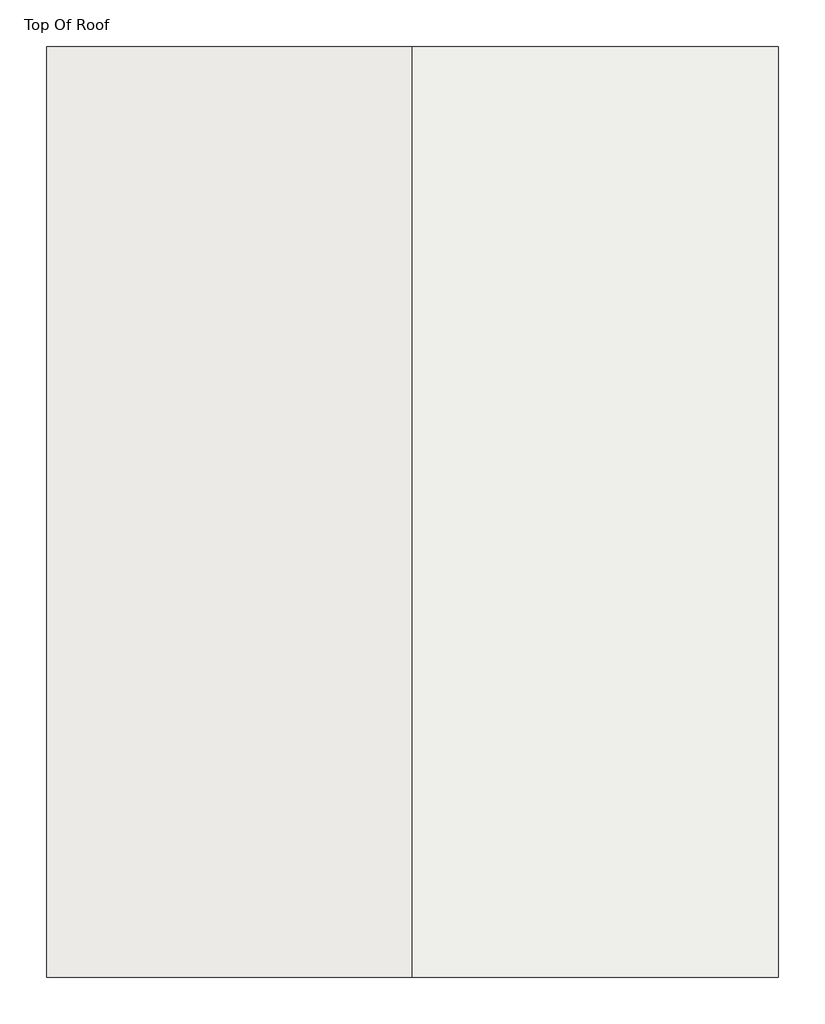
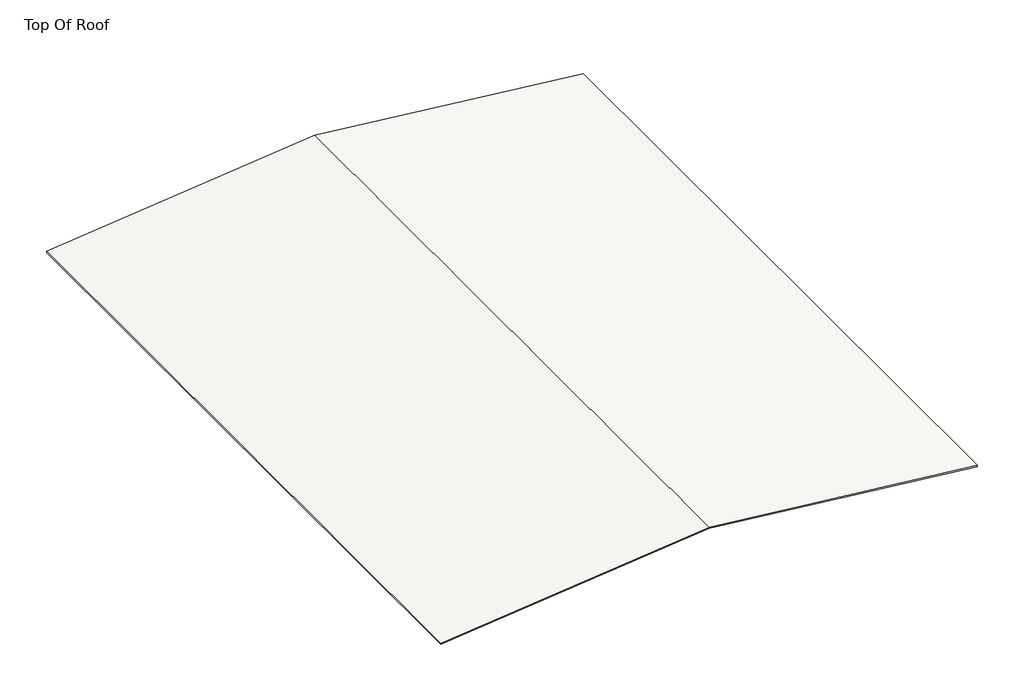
# One storey: 1 roof.
"""IFC4 building model written with IfcOpenShell, lengths in millimetres."""

import ifcopenshell
import ifcopenshell.guid

model = None  # the IFC model being written
_history = None  # IfcOwnerHistory: only IFC2X3 demands one
_inside = {}  # id of a spatial element -> (the spatial element, [elements in it])
_under = {}  # id of a project, library or spatial element -> (it, [spatial elements below it])
_declared = {}  # id of a project -> (the project, [libraries it declares])
_typed = {}  # id of a type object -> (the type object, [elements of that type])
_made_of = {}  # id of a material, layer set ... -> (it, [elements and type objects made of it])


def new_model(schema):
    """Start an empty IFC model of exactly this schema.

    Asked for "IFC4X3", IfcOpenShell would pick the latest addendum, in which some entities
    have other attributes; the version numbers below select the first issue.
    IFC2X3 requires an IfcOwnerHistory on every rooted entity: one is made here for all.
    """
    global model, _history
    if schema == "IFC4X3":
        model = ifcopenshell.file(schema_version=(4, 3, 0, 0))
    else:
        model = ifcopenshell.file(schema=schema)
    _inside.clear()
    _under.clear()
    _declared.clear()
    _typed.clear()
    _made_of.clear()
    _history = None
    if model.schema == "IFC2X3":
        org = make("IfcOrganization", Name="unknown")
        user = make(
            "IfcPersonAndOrganization",
            ThePerson=make("IfcPerson", FamilyName="unknown"),
            TheOrganization=org,
        )
        app = make(
            "IfcApplication",
            ApplicationDeveloper=org,
            Version="unknown",
            ApplicationFullName="unknown",
            ApplicationIdentifier="unknown",
        )
        _history = make(
            "IfcOwnerHistory",
            OwningUser=user,
            OwningApplication=app,
            ChangeAction="ADDED",
            CreationDate=0,
        )
    return model


def make(cls, **values):
    """One entity of the class cls with the attributes given. An attribute that is None is left unset."""
    return model.create_entity(
        cls, **{name: value for name, value in values.items() if value is not None}
    )


def rooted(cls, **values):
    """An entity with a GlobalId (a new one), such as an element, a storey or a relation."""
    return make(cls, GlobalId=ifcopenshell.guid.new(), OwnerHistory=_history, **values)


def si_unit(unit_type, name, prefix=None):
    """IfcSIUnit, for example si_unit("LENGTHUNIT", "METRE", prefix="MILLI")."""
    return make("IfcSIUnit", UnitType=unit_type, Prefix=prefix, Name=name)


def assignment(units):
    """IfcUnitAssignment: the units of a project."""
    return None if units is None else make("IfcUnitAssignment", Units=units)


def point(xyz):
    """IfcCartesianPoint."""
    return None if xyz is None else make("IfcCartesianPoint", Coordinates=xyz)


def direction(xyz):
    """IfcDirection."""
    return None if xyz is None else make("IfcDirection", DirectionRatios=xyz)


def frame(location, z_axis=None, x_axis=None):
    """IfcAxis2Placement3D, a coordinate frame: its origin and axes. An axis left out is left unset."""
    return make(
        "IfcAxis2Placement3D",
        Location=point(location),
        Axis=direction(z_axis),
        RefDirection=direction(x_axis),
    )


def origin():
    """The frame at (0, 0, 0) with its axes left unset."""
    return frame((0.0, 0.0, 0.0))


def place(relative_to, where):
    """IfcLocalPlacement: puts the frame where relative to a parent placement (None: the world)."""
    return make(
        "IfcLocalPlacement", PlacementRelTo=relative_to, RelativePlacement=where
    )


def context(
    kind, dimensions, precision=None, world=None, true_north=None, identifier=None
):
    """IfcGeometricRepresentationContext, for example the 3D "Model" context."""
    return make(
        "IfcGeometricRepresentationContext",
        ContextIdentifier=identifier,
        ContextType=kind,
        CoordinateSpaceDimension=dimensions,
        Precision=precision,
        WorldCoordinateSystem=world,
        TrueNorth=true_north,
    )


def project(units=None, contexts=None):
    """IfcProject with its units and contexts."""
    return rooted(
        "IfcProject",
        Name="project",
        RepresentationContexts=contexts,
        UnitsInContext=assignment(units),
    )


def spatial(cls, under=None, at=None, **own):
    """A site, building, storey or space (cls), placed at a placement, below another one or the project."""
    s = rooted(cls, ObjectPlacement=at, **own)
    if under is not None:
        _under.setdefault(under.id(), (under, []))[1].append(s)
    return s


def polyline(points):
    """IfcPolyline through the points."""
    return make("IfcPolyline", Points=[point(p) for p in points])


def outline(outer, holes=None, kind="AREA"):
    """IfcArbitraryClosedProfileDef: a profile drawn as a closed curve; with holes, ...WithVoids."""
    if holes is None:
        return make("IfcArbitraryClosedProfileDef", ProfileType=kind, OuterCurve=outer)
    return make(
        "IfcArbitraryProfileDefWithVoids",
        ProfileType=kind,
        OuterCurve=outer,
        InnerCurves=holes,
    )


def extrude(swept, where, along, depth):
    """IfcExtrudedAreaSolid: the profile swept, set in the frame where, extruded along a direction by depth."""
    return make(
        "IfcExtrudedAreaSolid",
        SweptArea=swept,
        Position=where,
        ExtrudedDirection=direction(along),
        Depth=depth,
    )


def shape(context_of_items, identifier, shape_type, items):
    """IfcShapeRepresentation: the items that make up one representation, for example the "Body"."""
    return make(
        "IfcShapeRepresentation",
        ContextOfItems=context_of_items,
        RepresentationIdentifier=identifier,
        RepresentationType=shape_type,
        Items=items,
    )


def made_of(thing, what):
    """Note that an element or type object is made of a material, layer set ...; save() writes the relation."""
    if what is not None:
        _made_of.setdefault(what.id(), (what, []))[1].append(thing)
    return thing


def element(
    cls,
    number,
    at=None,
    inside=None,
    cuts=None,
    type_object=None,
    material=None,
    context=None,
    identifier="Body",
    shape_type=None,
    held_by="IfcProductDefinitionShape",
    body=None,
    shapes=None,
    **own,
):
    """One element of the class cls, such as IfcWall. Its Tag is "e" and its number.

    at: its placement. inside: the storey or other place that contains it. cuts: it is an
    opening in that element (IfcRelVoidsElement). A single representation is given by context,
    identifier, shape_type and body (its items); several are given by shapes. held_by: the class
    of the entity that holds the representations. save() writes the other relations.
    """
    e = rooted(cls, Tag="e%d" % number, ObjectPlacement=at, **own)
    if body is not None:
        shapes = [shape(context, identifier, shape_type, body)]
    if shapes is not None:
        e.Representation = make(held_by, Representations=shapes)
    if inside is not None:
        _inside.setdefault(inside.id(), (inside, []))[1].append(e)
    if cuts is not None:
        rooted(
            "IfcRelVoidsElement", RelatingBuildingElement=cuts, RelatedOpeningElement=e
        )
    if type_object is not None:
        _typed.setdefault(type_object.id(), (type_object, []))[1].append(e)
    return made_of(e, material)


def aggregate(whole, parts):
    """IfcRelAggregates: a whole, such as a stair, and the parts it consists of."""
    return rooted("IfcRelAggregates", RelatingObject=whole, RelatedObjects=parts)


def save(model, path):
    """Write the relations noted so far, then the file.

    IfcRelAggregates (storeys below a building ...), IfcRelContainedInSpatialStructure (elements
    in a storey), IfcRelDefinesByType, IfcRelAssociatesMaterial and IfcRelDeclares: one each for
    every whole, place, type object, material and project.
    """
    for whole, parts in _under.values():
        aggregate(whole, parts)
    for where, things in _inside.values():
        rooted(
            "IfcRelContainedInSpatialStructure",
            RelatedElements=things,
            RelatingStructure=where,
        )
    for kind, things in _typed.values():
        rooted("IfcRelDefinesByType", RelatedObjects=things, RelatingType=kind)
    for what, things in _made_of.values():
        rooted("IfcRelAssociatesMaterial", RelatedObjects=things, RelatingMaterial=what)
    for by, libraries in _declared.values():
        rooted("IfcRelDeclares", RelatingContext=by, RelatedDefinitions=libraries)
    model.write(path)


model = new_model("IFC4")

# Units and contexts
model_context = context("Model", 3, world=origin())
ifc_project = project(units=[si_unit("LENGTHUNIT", "METRE", prefix="MILLI")], contexts=[model_context])

# Site, building, storey
site = spatial("IfcSite", under=ifc_project)
building = spatial("IfcBuilding", under=site)
storey = spatial("IfcBuildingStorey", under=building, Name="Top Of Roof", Elevation=9200.0)

# Roof
placement = place(None, origin())
element("IfcRoof", 1, ObjectType="Roof Sandwich Pannel", at=placement, inside=storey, context=model_context, shape_type="SweptSolid", body=[
    extrude(outline(polyline([(8163.7609681, -947.2327605), (9272.2174099, -11307.2327605), (8163.2620492, -21671.895822), (8112.9766714, -21671.895822), (9221.9320321, -11307.2327605), (8113.4755904, -947.2327605), (8163.7609681, -947.2327605)])), frame((0.0, -32744.7846466, 0.0), z_axis=(0.0, 1.0, 0.0), x_axis=(0.0, 0.0, 1.0)), (0.0, 0.0, 1.0), 26370.0),
])

save(model, "model.ifc")
